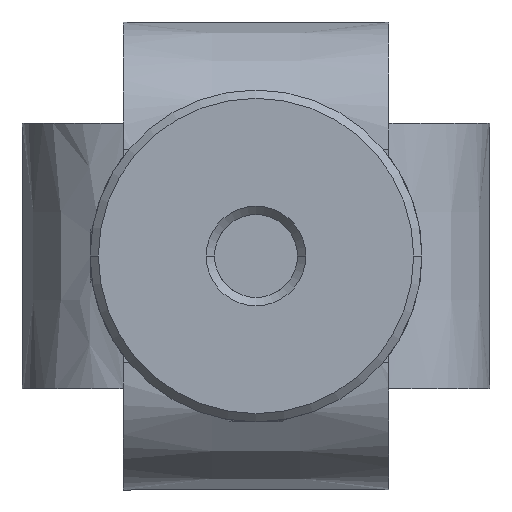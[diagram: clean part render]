
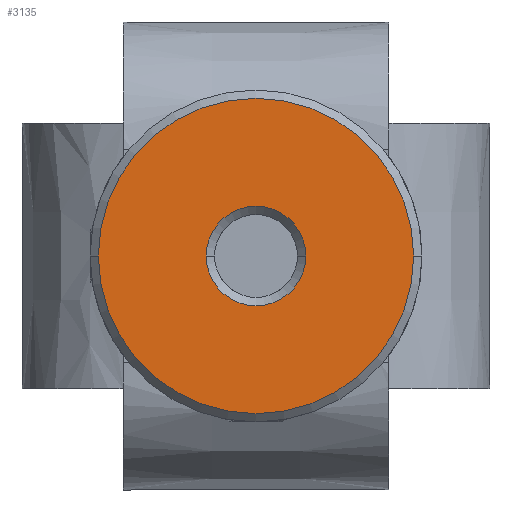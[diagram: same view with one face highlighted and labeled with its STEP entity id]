
A CAD part, front view. The second image highlights one B-rep face of the part: STEP entity #3135.
In plain terms, the highlighted planar face has unit normal (0, -1, 0).
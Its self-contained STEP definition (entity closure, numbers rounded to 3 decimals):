
#23 = CIRCLE ( 'NONE', #6130, 9.5 ) ;
#33 = AXIS2_PLACEMENT_3D ( 'NONE', #3177, #8054, #1803 ) ;
#779 = ORIENTED_EDGE ( 'NONE', *, *, #6542, .T. ) ;
#1356 = CARTESIAN_POINT ( 'NONE',  ( 3., -35.24, 0. ) ) ;
#1803 = DIRECTION ( 'NONE',  ( -1., 0., 0. ) ) ;
#1890 = DIRECTION ( 'NONE',  ( 0., -1., 0. ) ) ;
#2139 = AXIS2_PLACEMENT_3D ( 'NONE', #5516, #7488, #3791 ) ;
#2312 = VERTEX_POINT ( 'NONE', #1356 ) ;
#2333 = AXIS2_PLACEMENT_3D ( 'NONE', #3087, #8018, #2487 ) ;
#2487 = DIRECTION ( 'NONE',  ( -1., 0., 0. ) ) ;
#2574 = CARTESIAN_POINT ( 'NONE',  ( 9.5, -35.24, 0. ) ) ;
#2621 = ORIENTED_EDGE ( 'NONE', *, *, #6528, .T. ) ;
#2694 = CARTESIAN_POINT ( 'NONE',  ( -9.5, -35.24, 0. ) ) ;
#3087 = CARTESIAN_POINT ( 'NONE',  ( 0., -35.24, 0. ) ) ;
#3092 = CARTESIAN_POINT ( 'NONE',  ( 0., -35.24, 0. ) ) ;
#3135 = ADVANCED_FACE ( 'NONE', ( #7051, #4248 ), #6720, .T. ) ;
#3177 = CARTESIAN_POINT ( 'NONE',  ( 0., -35.24, 0. ) ) ;
#3211 = VERTEX_POINT ( 'NONE', #2574 ) ;
#3463 = VERTEX_POINT ( 'NONE', #2694 ) ;
#3523 = CIRCLE ( 'NONE', #7989, 9.5 ) ;
#3791 = DIRECTION ( 'NONE',  ( -1., 0., 0. ) ) ;
#3935 = EDGE_CURVE ( 'NONE', #3211, #3463, #23, .T. ) ;
#3982 = ORIENTED_EDGE ( 'NONE', *, *, #6517, .T. ) ;
#4248 = FACE_OUTER_BOUND ( 'NONE', #6961, .T. ) ;
#4516 = CIRCLE ( 'NONE', #2139, 3. ) ;
#5170 = CIRCLE ( 'NONE', #33, 3. ) ;
#5516 = CARTESIAN_POINT ( 'NONE',  ( 0., -35.24, 0. ) ) ;
#5599 = CARTESIAN_POINT ( 'NONE',  ( 0., -35.24, 0. ) ) ;
#6130 = AXIS2_PLACEMENT_3D ( 'NONE', #5599, #1890, #6231 ) ;
#6231 = DIRECTION ( 'NONE',  ( -1., 0., 0. ) ) ;
#6511 = VERTEX_POINT ( 'NONE', #7327 ) ;
#6517 = EDGE_CURVE ( 'NONE', #6511, #2312, #5170, .T. ) ;
#6528 = EDGE_CURVE ( 'NONE', #2312, #6511, #4516, .T. ) ;
#6542 = EDGE_CURVE ( 'NONE', #3463, #3211, #3523, .T. ) ;
#6720 = PLANE ( 'NONE',  #2333 ) ;
#6726 = EDGE_LOOP ( 'NONE', ( #3982, #2621 ) ) ;
#6961 = EDGE_LOOP ( 'NONE', ( #7277, #779 ) ) ;
#7051 = FACE_BOUND ( 'NONE', #6726, .T. ) ;
#7277 = ORIENTED_EDGE ( 'NONE', *, *, #3935, .T. ) ;
#7327 = CARTESIAN_POINT ( 'NONE',  ( -3., -35.24, 0. ) ) ;
#7404 = DIRECTION ( 'NONE',  ( -1., 0., 0. ) ) ;
#7488 = DIRECTION ( 'NONE',  ( 0., 1., 0. ) ) ;
#7989 = AXIS2_PLACEMENT_3D ( 'NONE', #3092, #8020, #7404 ) ;
#8018 = DIRECTION ( 'NONE',  ( 0., -1., 0. ) ) ;
#8020 = DIRECTION ( 'NONE',  ( 0., -1., 0. ) ) ;
#8054 = DIRECTION ( 'NONE',  ( 0., 1., 0. ) ) ;
